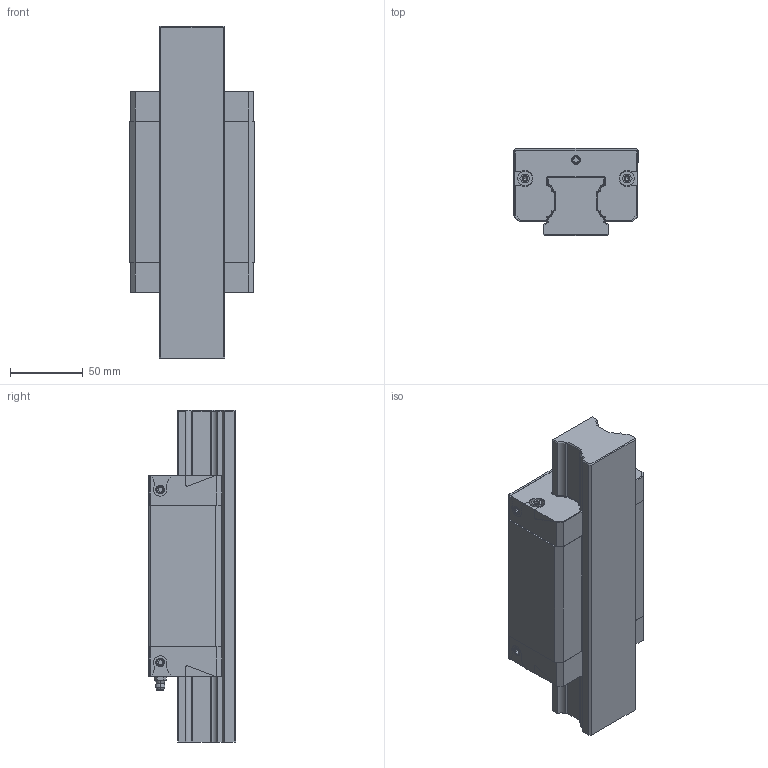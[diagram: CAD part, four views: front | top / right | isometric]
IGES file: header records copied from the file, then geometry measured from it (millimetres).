
Start section: 3D InterOp IGES (v. 2019 1.0.2), Spatial Corp. Copyright (c) 1999-2017.
Global section: file name: R1622_size45.igs; native system: Spatial Corp.; preprocessor: 3D InterOp GENERIC/IGES 3.0; author: Noname; organization: Noname; date: 20220629.124908; units: millimetre
Bounding box: 86 x 60 x 227.6 mm (x, y, z)
Surface area: 127055.8 mm2 (no closed solid volume)
Topology: 0 solids, 0 shells, 531 faces, 2816 edges, 2786 vertices
Faces by surface type: extrusion 292, revolution 239
